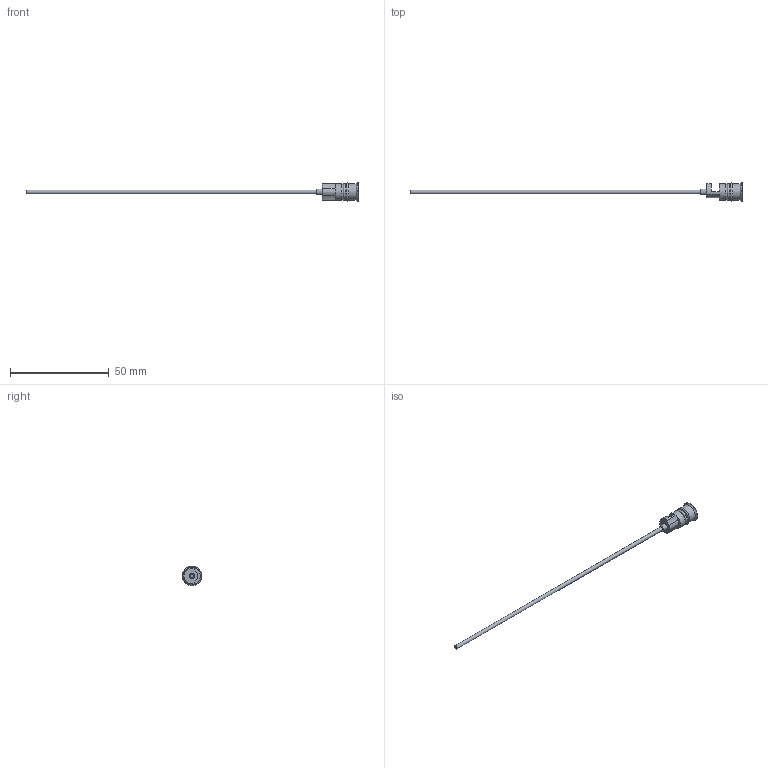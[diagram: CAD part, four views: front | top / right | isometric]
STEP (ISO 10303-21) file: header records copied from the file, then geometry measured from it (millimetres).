
FILE_DESCRIPTION( ( 'STEP AP214' ), '1' );
FILE_NAME( 'p:/temp/worker_256/temp/exporttempdir_3268_529_Xu1ix/format_0/RF-8x150_2.stp', '2021-02-05T19:33:10', ( 'License CC BY-ND 4.0' ), ( 'CADENAS' ), ' ', 'PARTsolutions', ' ' );
FILE_SCHEMA( ( 'AUTOMOTIVE_DESIGN { 1 0 10303 214 1 1 1 1 }' ) );
Length unit declared in the file: millimetre
Products named in the file (1): _RF-8x150/2
Bounding box: 168 x 9.8 x 9.8 mm (x, y, z)
Volume: 964.3 mm3; surface area: 2537.2 mm2
Topology: 1 solids, 1 shells, 46 faces, 111 edges, 71 vertices
Faces by surface type: plane 26, cylinder 13, cone 5, torus 2
Full cylindrical faces by diameter (mm): 1.5 x1, 2 x1, 3 x1, 4.9 x1, 8.5 x3, 9.8 x1
Entity records: 1651 total; most frequent: CARTESIAN_POINT 237, DIRECTION 217, ORIENTED_EDGE 188, EDGE_CURVE 94, AXIS2_PLACEMENT_3D 82, VERTEX_POINT 70, EDGE_LOOP 66, FACE_OUTER_BOUND 56
